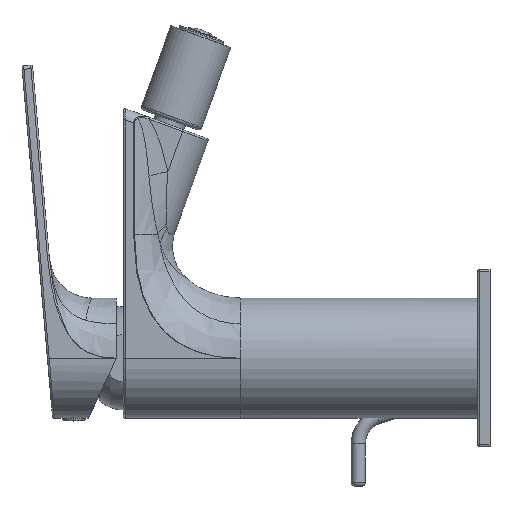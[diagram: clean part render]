
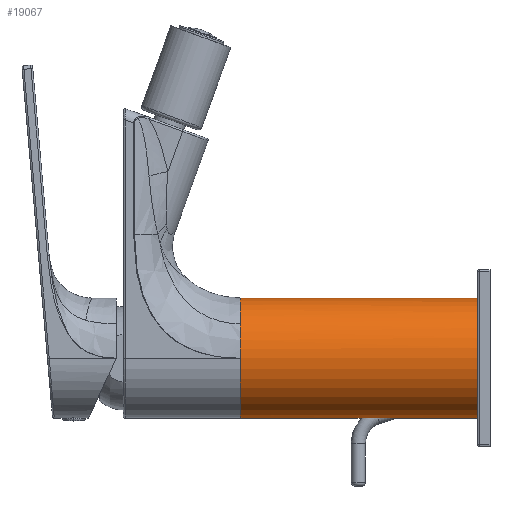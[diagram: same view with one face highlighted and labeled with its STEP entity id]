
A CAD part, left-side view. The second image highlights one B-rep face of the part: STEP entity #19067.
In plain terms, the highlighted cylindrical face has radius 17 mm (diameter 34 mm), a partial arc.
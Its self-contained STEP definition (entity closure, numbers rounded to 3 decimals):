
#791=CARTESIAN_POINT('',(0.,67.,0.));
#792=DIRECTION('',(0.,1.,0.));
#793=DIRECTION('',(-0.819,0.,0.574));
#794=AXIS2_PLACEMENT_3D('',#791,#792,#793);
#859=CARTESIAN_POINT('',(0.,0.,0.));
#860=DIRECTION('',(0.,1.,0.));
#861=DIRECTION('',(0.,0.,-1.));
#862=AXIS2_PLACEMENT_3D('',#859,#860,#861);
#864=DIRECTION('',(0.,1.,0.));
#865=VECTOR('',#864,21.462);
#866=CARTESIAN_POINT('',(0.,0.,-17.));
#867=LINE('',#866,#865);
#868=CARTESIAN_POINT('',(0.,36.081,-17.));
#869=CARTESIAN_POINT('',(-0.026,36.081,-17.));
#870=CARTESIAN_POINT('',(-0.078,36.078,
-17.));
#871=CARTESIAN_POINT('',(-0.157,36.066,
-16.999));
#872=CARTESIAN_POINT('',(-0.236,36.045,
-16.998));
#873=CARTESIAN_POINT('',(-0.317,36.016,
-16.997));
#874=CARTESIAN_POINT('',(-0.401,35.975,-16.995));
#875=CARTESIAN_POINT('',(-0.49,35.921,
-16.993));
#876=CARTESIAN_POINT('',(-0.583,35.854,
-16.99));
#877=CARTESIAN_POINT('',(-0.682,35.769,
-16.986));
#878=CARTESIAN_POINT('',(-0.785,35.664,
-16.982));
#879=CARTESIAN_POINT('',(-0.894,35.537,
-16.977));
#880=CARTESIAN_POINT('',(-1.006,35.384,-16.97));
#881=CARTESIAN_POINT('',(-1.123,35.204,-16.963));
#882=CARTESIAN_POINT('',(-1.243,34.993,-16.955));
#883=CARTESIAN_POINT('',(-1.366,34.748,-16.945));
#884=CARTESIAN_POINT('',(-1.492,34.464,-16.935));
#885=CARTESIAN_POINT('',(-1.619,34.137,-16.923));
#886=CARTESIAN_POINT('',(-1.747,33.763,-16.91));
#887=CARTESIAN_POINT('',(-1.874,33.335,-16.897));
#888=CARTESIAN_POINT('',(-2.,32.846,-16.882));
#889=CARTESIAN_POINT('',(-2.122,32.289,-16.867));
#890=CARTESIAN_POINT('',(-2.237,31.652,-16.852));
#891=CARTESIAN_POINT('',(-2.342,30.926,-16.838));
#892=CARTESIAN_POINT('',(-2.43,30.089,-16.826));
#893=CARTESIAN_POINT('',(-2.489,29.153,-16.817));
#894=CARTESIAN_POINT('',(-2.507,28.208,-16.814));
#895=CARTESIAN_POINT('',(-2.485,27.311,-16.817));
#896=CARTESIAN_POINT('',(-2.427,26.472,-16.826));
#897=CARTESIAN_POINT('',(-2.341,25.719,-16.838));
#898=CARTESIAN_POINT('',(-2.235,25.062,-16.853));
#899=CARTESIAN_POINT('',(-2.115,24.492,-16.868));
#900=CARTESIAN_POINT('',(-1.987,24.,-16.884));
#901=CARTESIAN_POINT('',(-1.852,23.573,-16.899));
#902=CARTESIAN_POINT('',(-1.715,23.207,-16.913));
#903=CARTESIAN_POINT('',(-1.577,22.892,-16.927));
#904=CARTESIAN_POINT('',(-1.44,22.623,-16.939));
#905=CARTESIAN_POINT('',(-1.305,22.395,-16.95));
#906=CARTESIAN_POINT('',(-1.174,22.203,-16.96));
#907=CARTESIAN_POINT('',(-1.047,22.042,-16.968));
#908=CARTESIAN_POINT('',(-0.926,21.909,
-16.975));
#909=CARTESIAN_POINT('',(-0.809,21.8,
-16.981));
#910=CARTESIAN_POINT('',(-0.698,21.711,
-16.986));
#911=CARTESIAN_POINT('',(-0.59,21.638,
-16.99));
#912=CARTESIAN_POINT('',(-0.486,21.58,
-16.993));
#913=CARTESIAN_POINT('',(-0.385,21.535,
-16.996));
#914=CARTESIAN_POINT('',(-0.287,21.502,
-16.998));
#915=CARTESIAN_POINT('',(-0.191,21.479,
-16.999));
#916=CARTESIAN_POINT('',(-0.096,21.465,
-17.));
#917=CARTESIAN_POINT('',(-0.032,21.462,-17.));
#918=CARTESIAN_POINT('',(0.,21.462,-17.));
#920=DIRECTION('',(0.,1.,0.));
#921=VECTOR('',#920,30.919);
#922=CARTESIAN_POINT('',(0.,36.081,-17.));
#923=LINE('',#922,#921);
#1481=DIRECTION('',(0.,1.,0.));
#1482=VECTOR('',#1481,67.);
#1483=CARTESIAN_POINT('',(0.,0.,17.));
#1484=LINE('',#1483,#1482);
#1490=CARTESIAN_POINT('',(0.,67.,0.));
#1491=DIRECTION('',(0.,1.,0.));
#1492=DIRECTION('',(0.,0.,-1.));
#1493=AXIS2_PLACEMENT_3D('',#1490,#1491,#1492);
#1495=CARTESIAN_POINT('',(0.,21.462,-17.));
#1545=CARTESIAN_POINT('',(0.,36.081,-17.));
#6969=CARTESIAN_POINT('',(0.,67.,0.));
#6970=DIRECTION('',(0.,1.,0.));
#6971=DIRECTION('',(-1.,0.,0.));
#6972=AXIS2_PLACEMENT_3D('',#6969,#6970,#6971);
#16048=VERTEX_POINT('',#1495);
#16049=VERTEX_POINT('',#1545);
#16106=CARTESIAN_POINT('',(-13.926,67.,9.751));
#16107=CARTESIAN_POINT('',(0.,67.,17.));
#16108=VERTEX_POINT('',#16106);
#16109=VERTEX_POINT('',#16107);
#16110=CARTESIAN_POINT('',(0.,67.,-17.));
#16111=CARTESIAN_POINT('',(-17.,67.,0.));
#16112=VERTEX_POINT('',#16110);
#16113=VERTEX_POINT('',#16111);
#17105=CARTESIAN_POINT('',(0.,0.,17.));
#17106=CARTESIAN_POINT('',(0.,0.,-17.));
#17107=VERTEX_POINT('',#17105);
#17108=VERTEX_POINT('',#17106);
#19045=CARTESIAN_POINT('',(0.,0.,0.));
#19046=DIRECTION('',(0.,1.,0.));
#19047=DIRECTION('',(0.,0.,1.));
#19048=AXIS2_PLACEMENT_3D('',#19045,#19046,#19047);
#19049=CYLINDRICAL_SURFACE('',#19048,17.);
#19051=ORIENTED_EDGE('',*,*,#19050,.F.);
#19053=ORIENTED_EDGE('',*,*,#19052,.T.);
#19055=ORIENTED_EDGE('',*,*,#19054,.F.);
#19057=ORIENTED_EDGE('',*,*,#19056,.T.);
#19059=ORIENTED_EDGE('',*,*,#19058,.T.);
#19061=ORIENTED_EDGE('',*,*,#19060,.T.);
#19062=ORIENTED_EDGE('',*,*,#19035,.T.);
#19064=ORIENTED_EDGE('',*,*,#19063,.F.);
#19065=EDGE_LOOP('',(#19051,#19053,#19055,#19057,#19059,#19061,#19062,#19064));
#19066=FACE_OUTER_BOUND('',#19065,.F.);
#19067=ADVANCED_FACE('',(#19066),#19049,.T.);
#795=CIRCLE('',#794,17.);
#863=CIRCLE('',#862,17.);
#919=B_SPLINE_CURVE_WITH_KNOTS('',3,(#868,#869,#870,#871,#872,#873,#874,#875,
#876,#877,#878,#879,#880,#881,#882,#883,#884,#885,#886,#887,#888,#889,#890,#891,
#892,#893,#894,#895,#896,#897,#898,#899,#900,#901,#902,#903,#904,#905,#906,#907,
#908,#909,#910,#911,#912,#913,#914,#915,#916,#917,#918),.UNSPECIFIED.,.F.,.F.,
(4,1,1,1,1,1,1,1,1,1,1,1,1,1,1,1,1,1,1,1,1,1,1,1,1,1,1,1,1,1,1,1,1,1,1,1,1,1,1,
1,1,1,1,1,1,1,1,1,4),(0.,0.021,0.042,0.063,
0.083,0.104,0.125,0.146,0.167,
0.188,0.208,0.229,0.25,0.271,
0.292,0.313,0.333,0.354,0.375,
0.396,0.417,0.438,0.458,
0.479,0.5,0.521,0.542,0.563,
0.583,0.604,0.625,0.646,0.667,
0.688,0.708,0.729,0.75,0.771,
0.792,0.813,0.833,0.854,0.875,
0.896,0.917,0.938,0.958,
0.979,1.),.UNSPECIFIED.);
#1494=CIRCLE('',#1493,17.);
#6973=CIRCLE('',#6972,17.);
#19035=EDGE_CURVE('',#16108,#16109,#795,.T.);
#19050=EDGE_CURVE('',#17108,#17107,#863,.T.);
#19052=EDGE_CURVE('',#17108,#16048,#867,.T.);
#19054=EDGE_CURVE('',#16049,#16048,#919,.T.);
#19056=EDGE_CURVE('',#16049,#16112,#923,.T.);
#19058=EDGE_CURVE('',#16112,#16113,#1494,.T.);
#19060=EDGE_CURVE('',#16113,#16108,#6973,.T.);
#19063=EDGE_CURVE('',#17107,#16109,#1484,.T.);
